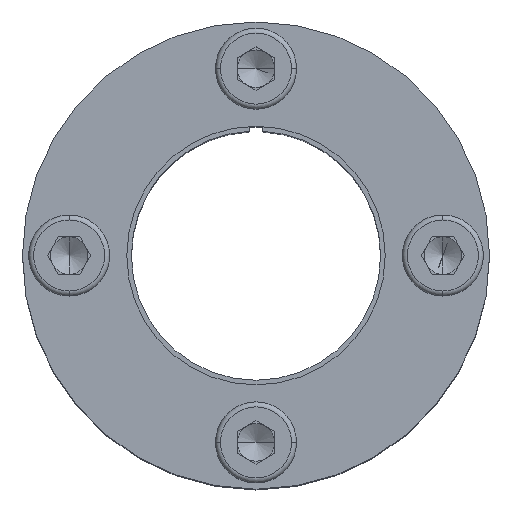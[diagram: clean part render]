
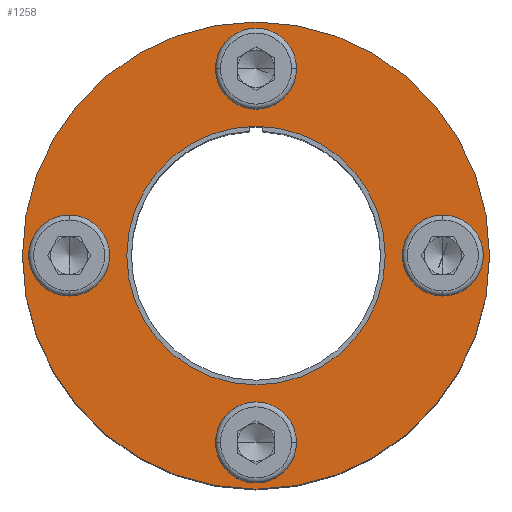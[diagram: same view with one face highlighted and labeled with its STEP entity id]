
A CAD part, top view. The second image highlights one B-rep face of the part: STEP entity #1258.
In plain terms, the highlighted planar face has unit normal (0, 0, 1).
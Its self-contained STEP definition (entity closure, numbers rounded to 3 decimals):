
#41 = EDGE_CURVE ( 'NONE', #5040, #6229, #4256, .T. ) ;
#48 = AXIS2_PLACEMENT_3D ( 'NONE', #2542, #6114, #3041 ) ;
#87 = CIRCLE ( 'NONE', #529, 37.5 ) ;
#106 = ORIENTED_EDGE ( 'NONE', *, *, #5603, .T. ) ;
#269 = CARTESIAN_POINT ( 'NONE',  ( 30., 0., 73.427 ) ) ;
#335 = AXIS2_PLACEMENT_3D ( 'NONE', #4057, #988, #4560 ) ;
#376 = CARTESIAN_POINT ( 'NONE',  ( 34.5, 0., 73.427 ) ) ;
#399 = DIRECTION ( 'NONE',  ( 1., 0., 0. ) ) ;
#429 = DIRECTION ( 'NONE',  ( 0., 0., -1. ) ) ;
#477 = ORIENTED_EDGE ( 'NONE', *, *, #41, .T. ) ;
#526 = CARTESIAN_POINT ( 'NONE',  ( 0., 0., 73.427 ) ) ;
#529 = AXIS2_PLACEMENT_3D ( 'NONE', #2375, #5953, #2886 ) ;
#586 = FACE_BOUND ( 'NONE', #983, .T. ) ;
#712 = VERTEX_POINT ( 'NONE', #1323 ) ;
#792 = DIRECTION ( 'NONE',  ( 1., 0., 0. ) ) ;
#836 = CARTESIAN_POINT ( 'NONE',  ( 0., 30., 73.427 ) ) ;
#864 = EDGE_CURVE ( 'NONE', #1990, #1814, #2200, .T. ) ;
#943 = CARTESIAN_POINT ( 'NONE',  ( -25.5, 0., 73.427 ) ) ;
#983 = EDGE_LOOP ( 'NONE', ( #3290, #3640 ) ) ;
#988 = DIRECTION ( 'NONE',  ( 0., 0., -1. ) ) ;
#1120 = CIRCLE ( 'NONE', #1372, 4.5 ) ;
#1171 = EDGE_CURVE ( 'NONE', #1337, #4086, #4119, .T. ) ;
#1258 = ADVANCED_FACE ( 'NONE', ( #1945, #4681, #586, #5864, #4507, #3143 ), #2405, .F. ) ;
#1269 = CARTESIAN_POINT ( 'NONE',  ( 20.748, 0., 73.427 ) ) ;
#1278 = ORIENTED_EDGE ( 'NONE', *, *, #1489, .F. ) ;
#1323 = CARTESIAN_POINT ( 'NONE',  ( 37.5, 0., 73.427 ) ) ;
#1330 = DIRECTION ( 'NONE',  ( 1., 0., 0. ) ) ;
#1337 = VERTEX_POINT ( 'NONE', #6604 ) ;
#1356 = AXIS2_PLACEMENT_3D ( 'NONE', #1822, #5419, #2367 ) ;
#1372 = AXIS2_PLACEMENT_3D ( 'NONE', #269, #3860, #792 ) ;
#1489 = EDGE_CURVE ( 'NONE', #712, #3615, #87, .T. ) ;
#1504 = CARTESIAN_POINT ( 'NONE',  ( -20.748, 0., 73.427 ) ) ;
#1607 = CARTESIAN_POINT ( 'NONE',  ( 0., 0., 73.427 ) ) ;
#1647 = AXIS2_PLACEMENT_3D ( 'NONE', #526, #429, #399 ) ;
#1735 = EDGE_CURVE ( 'NONE', #6229, #5040, #6264, .T. ) ;
#1743 = CARTESIAN_POINT ( 'NONE',  ( 4.5, -30., 73.427 ) ) ;
#1814 = VERTEX_POINT ( 'NONE', #6635 ) ;
#1822 = CARTESIAN_POINT ( 'NONE',  ( 30., 0., 73.427 ) ) ;
#1893 = VERTEX_POINT ( 'NONE', #3732 ) ;
#1945 = FACE_BOUND ( 'NONE', #6110, .T. ) ;
#1979 = CARTESIAN_POINT ( 'NONE',  ( -30., 0., 73.427 ) ) ;
#1990 = VERTEX_POINT ( 'NONE', #1743 ) ;
#2009 = EDGE_CURVE ( 'NONE', #4086, #1337, #1120, .T. ) ;
#2132 = DIRECTION ( 'NONE',  ( 1., 0., 0. ) ) ;
#2200 = CIRCLE ( 'NONE', #3013, 4.5 ) ;
#2279 = CARTESIAN_POINT ( 'NONE',  ( -37.5, 0., 73.427 ) ) ;
#2367 = DIRECTION ( 'NONE',  ( 1., 0., 0. ) ) ;
#2375 = CARTESIAN_POINT ( 'NONE',  ( 0., 0., 73.427 ) ) ;
#2405 = PLANE ( 'NONE',  #6176 ) ;
#2492 = ORIENTED_EDGE ( 'NONE', *, *, #3884, .T. ) ;
#2510 = DIRECTION ( 'NONE',  ( 1., 0., 0. ) ) ;
#2542 = CARTESIAN_POINT ( 'NONE',  ( 0., 0., 73.427 ) ) ;
#2571 = DIRECTION ( 'NONE',  ( 0., 0., -1. ) ) ;
#2623 = CARTESIAN_POINT ( 'NONE',  ( -4.5, 30., 73.427 ) ) ;
#2730 = EDGE_CURVE ( 'NONE', #5818, #6298, #5322, .T. ) ;
#2886 = DIRECTION ( 'NONE',  ( 1., 0., 0. ) ) ;
#2945 = CARTESIAN_POINT ( 'NONE',  ( 0., 0., 73.427 ) ) ;
#2946 = DIRECTION ( 'NONE',  ( 0., 0., -1. ) ) ;
#2959 = CARTESIAN_POINT ( 'NONE',  ( 0., 30., 73.427 ) ) ;
#3013 = AXIS2_PLACEMENT_3D ( 'NONE', #5634, #2571, #6150 ) ;
#3041 = DIRECTION ( 'NONE',  ( 1., 0., 0. ) ) ;
#3143 = FACE_OUTER_BOUND ( 'NONE', #4667, .T. ) ;
#3163 = EDGE_CURVE ( 'NONE', #6298, #5818, #6185, .T. ) ;
#3228 = AXIS2_PLACEMENT_3D ( 'NONE', #836, #4403, #1330 ) ;
#3244 = AXIS2_PLACEMENT_3D ( 'NONE', #6008, #2946, #6516 ) ;
#3290 = ORIENTED_EDGE ( 'NONE', *, *, #2009, .T. ) ;
#3377 = EDGE_LOOP ( 'NONE', ( #6567, #106 ) ) ;
#3454 = DIRECTION ( 'NONE',  ( 1., 0., 0. ) ) ;
#3481 = CIRCLE ( 'NONE', #4227, 37.5 ) ;
#3484 = DIRECTION ( 'NONE',  ( 1., 0., 0. ) ) ;
#3538 = CIRCLE ( 'NONE', #3244, 4.5 ) ;
#3555 = EDGE_LOOP ( 'NONE', ( #3595, #3838 ) ) ;
#3595 = ORIENTED_EDGE ( 'NONE', *, *, #3163, .T. ) ;
#3615 = VERTEX_POINT ( 'NONE', #2279 ) ;
#3640 = ORIENTED_EDGE ( 'NONE', *, *, #1171, .T. ) ;
#3732 = CARTESIAN_POINT ( 'NONE',  ( -34.5, 0., 73.427 ) ) ;
#3838 = ORIENTED_EDGE ( 'NONE', *, *, #2730, .T. ) ;
#3860 = DIRECTION ( 'NONE',  ( 0., 0., -1. ) ) ;
#3884 = EDGE_CURVE ( 'NONE', #4634, #1893, #6253, .T. ) ;
#4057 = CARTESIAN_POINT ( 'NONE',  ( 0., -30., 73.427 ) ) ;
#4086 = VERTEX_POINT ( 'NONE', #376 ) ;
#4119 = CIRCLE ( 'NONE', #1356, 4.5 ) ;
#4227 = AXIS2_PLACEMENT_3D ( 'NONE', #1607, #5195, #2132 ) ;
#4256 = CIRCLE ( 'NONE', #1647, 20.748 ) ;
#4403 = DIRECTION ( 'NONE',  ( 0., 0., -1. ) ) ;
#4507 = FACE_BOUND ( 'NONE', #5932, .T. ) ;
#4560 = DIRECTION ( 'NONE',  ( 1., 0., 0. ) ) ;
#4624 = CARTESIAN_POINT ( 'NONE',  ( 4.5, 30., 73.427 ) ) ;
#4634 = VERTEX_POINT ( 'NONE', #943 ) ;
#4667 = EDGE_LOOP ( 'NONE', ( #5752, #1278 ) ) ;
#4681 = FACE_BOUND ( 'NONE', #3555, .T. ) ;
#4770 = AXIS2_PLACEMENT_3D ( 'NONE', #2959, #6530, #3484 ) ;
#4785 = CIRCLE ( 'NONE', #335, 4.5 ) ;
#5040 = VERTEX_POINT ( 'NONE', #1269 ) ;
#5179 = EDGE_CURVE ( 'NONE', #1893, #4634, #3538, .T. ) ;
#5195 = DIRECTION ( 'NONE',  ( 0., 0., -1. ) ) ;
#5322 = CIRCLE ( 'NONE', #4770, 4.5 ) ;
#5332 = AXIS2_PLACEMENT_3D ( 'NONE', #1979, #5571, #2510 ) ;
#5419 = DIRECTION ( 'NONE',  ( 0., 0., -1. ) ) ;
#5571 = DIRECTION ( 'NONE',  ( 0., 0., -1. ) ) ;
#5603 = EDGE_CURVE ( 'NONE', #1814, #1990, #4785, .T. ) ;
#5634 = CARTESIAN_POINT ( 'NONE',  ( 0., -30., 73.427 ) ) ;
#5752 = ORIENTED_EDGE ( 'NONE', *, *, #6366, .F. ) ;
#5818 = VERTEX_POINT ( 'NONE', #2623 ) ;
#5864 = FACE_BOUND ( 'NONE', #3377, .T. ) ;
#5932 = EDGE_LOOP ( 'NONE', ( #477, #6286 ) ) ;
#5953 = DIRECTION ( 'NONE',  ( 0., 0., -1. ) ) ;
#6008 = CARTESIAN_POINT ( 'NONE',  ( -30., 0., 73.427 ) ) ;
#6110 = EDGE_LOOP ( 'NONE', ( #2492, #6553 ) ) ;
#6114 = DIRECTION ( 'NONE',  ( 0., 0., -1. ) ) ;
#6150 = DIRECTION ( 'NONE',  ( 1., 0., 0. ) ) ;
#6176 = AXIS2_PLACEMENT_3D ( 'NONE', #2945, #6514, #3454 ) ;
#6185 = CIRCLE ( 'NONE', #3228, 4.5 ) ;
#6229 = VERTEX_POINT ( 'NONE', #1504 ) ;
#6253 = CIRCLE ( 'NONE', #5332, 4.5 ) ;
#6264 = CIRCLE ( 'NONE', #48, 20.748 ) ;
#6286 = ORIENTED_EDGE ( 'NONE', *, *, #1735, .T. ) ;
#6298 = VERTEX_POINT ( 'NONE', #4624 ) ;
#6366 = EDGE_CURVE ( 'NONE', #3615, #712, #3481, .T. ) ;
#6514 = DIRECTION ( 'NONE',  ( 0., 0., -1. ) ) ;
#6516 = DIRECTION ( 'NONE',  ( 1., 0., 0. ) ) ;
#6530 = DIRECTION ( 'NONE',  ( 0., 0., -1. ) ) ;
#6553 = ORIENTED_EDGE ( 'NONE', *, *, #5179, .T. ) ;
#6567 = ORIENTED_EDGE ( 'NONE', *, *, #864, .T. ) ;
#6604 = CARTESIAN_POINT ( 'NONE',  ( 25.5, 0., 73.427 ) ) ;
#6635 = CARTESIAN_POINT ( 'NONE',  ( -4.5, -30., 73.427 ) ) ;
